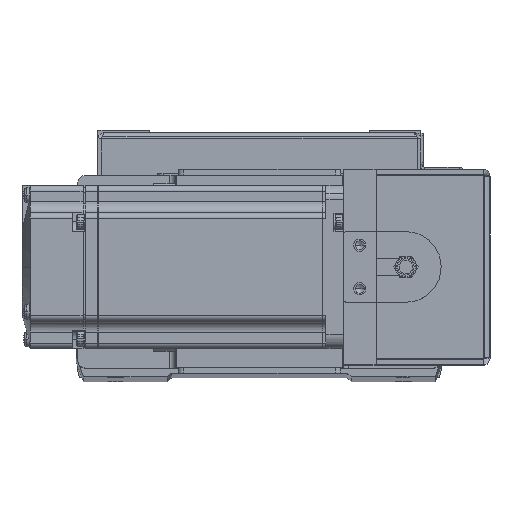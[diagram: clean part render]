
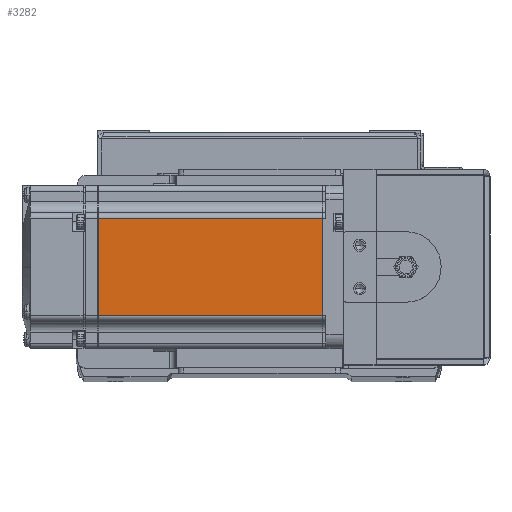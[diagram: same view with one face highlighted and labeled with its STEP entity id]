
A CAD part, top view. The second image highlights one B-rep face of the part: STEP entity #3282.
In plain terms, the highlighted planar face has unit normal (0, 0, 1).
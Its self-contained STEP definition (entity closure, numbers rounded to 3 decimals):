
#279 = CARTESIAN_POINT ( 'NONE',  ( -90.45, 18., 30. ) ) ;
#909 = VECTOR ( 'NONE', #29953, 1000. ) ;
#2225 = LINE ( 'NONE', #16996, #19540 ) ;
#2990 = VECTOR ( 'NONE', #14700, 1000. ) ;
#3263 = ORIENTED_EDGE ( 'NONE', *, *, #34978, .T. ) ;
#3282 = ADVANCED_FACE ( 'NONE', ( #3712 ), #15024, .T. ) ;
#3712 = FACE_OUTER_BOUND ( 'NONE', #21856, .T. ) ;
#4120 = CARTESIAN_POINT ( 'NONE',  ( -7.75, 18., 30. ) ) ;
#4866 = VERTEX_POINT ( 'NONE', #12495 ) ;
#8783 = LINE ( 'NONE', #12031, #2990 ) ;
#9257 = CARTESIAN_POINT ( 'NONE',  ( -6.5, 18., 30. ) ) ;
#9957 = VERTEX_POINT ( 'NONE', #4120 ) ;
#10387 = LINE ( 'NONE', #33216, #17310 ) ;
#12031 = CARTESIAN_POINT ( 'NONE',  ( -7.75, 0., 30. ) ) ;
#12495 = CARTESIAN_POINT ( 'NONE',  ( -90.45, -18., 30. ) ) ;
#14700 = DIRECTION ( 'NONE',  ( 0., -1., 0. ) ) ;
#15024 = PLANE ( 'NONE',  #25823 ) ;
#15406 = DIRECTION ( 'NONE',  ( 1., 0., 0. ) ) ;
#15452 = ORIENTED_EDGE ( 'NONE', *, *, #34658, .F. ) ;
#16063 = CARTESIAN_POINT ( 'NONE',  ( -7.75, -18., 30. ) ) ;
#16996 = CARTESIAN_POINT ( 'NONE',  ( -90.45, 0., 30. ) ) ;
#17310 = VECTOR ( 'NONE', #27067, 1000. ) ;
#17709 = DIRECTION ( 'NONE',  ( 0., 0., 1. ) ) ;
#18043 = EDGE_CURVE ( 'NONE', #9957, #27420, #23458, .T. ) ;
#19540 = VECTOR ( 'NONE', #31191, 1000. ) ;
#20706 = ORIENTED_EDGE ( 'NONE', *, *, #18043, .T. ) ;
#20778 = CARTESIAN_POINT ( 'NONE',  ( -6.5, -25., 30. ) ) ;
#21719 = ORIENTED_EDGE ( 'NONE', *, *, #37910, .F. ) ;
#21856 = EDGE_LOOP ( 'NONE', ( #15452, #20706, #3263, #21719 ) ) ;
#22917 = VERTEX_POINT ( 'NONE', #16063 ) ;
#23458 = LINE ( 'NONE', #9257, #909 ) ;
#25823 = AXIS2_PLACEMENT_3D ( 'NONE', #20778, #17709, #15406 ) ;
#27067 = DIRECTION ( 'NONE',  ( -1., 0., 0. ) ) ;
#27420 = VERTEX_POINT ( 'NONE', #279 ) ;
#29953 = DIRECTION ( 'NONE',  ( -1., 0., 0. ) ) ;
#31191 = DIRECTION ( 'NONE',  ( 0., -1., 0. ) ) ;
#33216 = CARTESIAN_POINT ( 'NONE',  ( -6.5, -18., 30. ) ) ;
#34658 = EDGE_CURVE ( 'NONE', #9957, #22917, #8783, .T. ) ;
#34978 = EDGE_CURVE ( 'NONE', #27420, #4866, #2225, .T. ) ;
#37910 = EDGE_CURVE ( 'NONE', #22917, #4866, #10387, .T. ) ;
